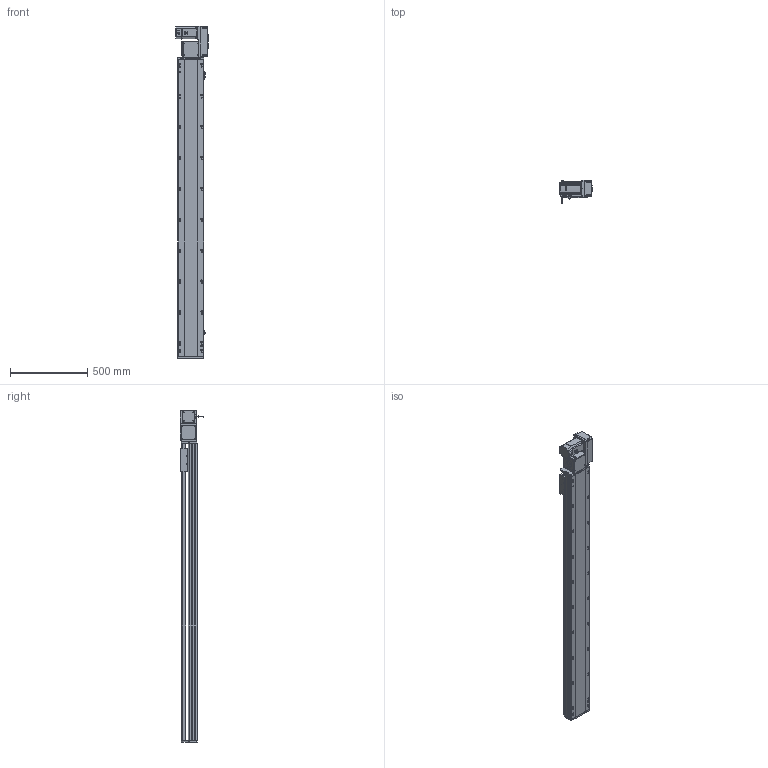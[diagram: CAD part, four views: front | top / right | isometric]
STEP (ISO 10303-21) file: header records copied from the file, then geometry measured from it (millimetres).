
FILE_DESCRIPTION (( 'STEP AP214' ), '1' );
FILE_NAME ('RTB17S-XX-1650-R-M75-C4.STEP', '2025-12-12T01:39:15', ( '' ), ( '' ), 'SwSTEP 2.0', 'SolidWorks 2018', '' );
FILE_SCHEMA (( 'AUTOMOTIVE_DESIGN' ));
Length unit declared in the file: millimetre
Products named in the file (15): RTB17S-L-014-T20-P75--々湍釱^RTB17S-R-々湍釱蚾饜-750W_RTB17S-XX-XX-R-M75-C4; RTB17S-L-007奻裔^RTB17S-XX-XX-R-M75-C4; EE672^RTB17S-XX-XX-R-M75-C4; RTB22S-GY-018P^RTB17S-R-々湍釱蚾饜-750W_RTB17S-XX-XX-R-M75-C4; RTB17S-XX-1650-R-M75-C4; RTB17S-R-々湍釱蚾饜-750W^RTB17S-XX-XX-R-M75-C4; RTB22S-GY-005P^RTB17S-R-々湍釱蚾饜-750W_RTB17S-XX-XX-R-M75-C4; RTB17S-賑釱^RTB17S-XX-XX-R-M75-C4; RTB17S-L-001-耜醱啣^RTB17S-XX-XX-R-M75-C4; RTB17S-L-004-賑釱^RTB17S-賑釱_RTB17S-XX-XX-R-M75-C4; RTH13-BL-012覜茼え俋离^RTB17S-賑釱_RTB17S-XX-XX-R-M75-C4; RTB22S-GY-008-M75--萇儂啣^RTB17S-R-々湍釱蚾饜-750W_RTB17S-XX-XX-R-M75-C4; RTB17-R-011菁釱^RTB17S-XX-XX-R-M75-C4; RTB22S-GY-017P^RTB17S-R-々湍釱蚾饜-750W_RTB17S-XX-XX-R-M75-C4; 750W萇儂^RTB17S-XX-XX-R-M75-C4
Assembly tree (17 placements, depth 3):
  RTB17S-XX-1650-R-M75-C4
    RTB17-R-011菁釱^RTB17S-XX-XX-R-M75-C4
    EE672^RTB17S-XX-XX-R-M75-C4  x3
    RTB17S-L-001-耜醱啣^RTB17S-XX-XX-R-M75-C4
    RTB17S-賑釱^RTB17S-XX-XX-R-M75-C4
      RTB17S-L-004-賑釱^RTB17S-賑釱_RTB17S-XX-XX-R-M75-C4
      RTH13-BL-012覜茼え俋离^RTB17S-賑釱_RTB17S-XX-XX-R-M75-C4
    RTB17S-L-007奻裔^RTB17S-XX-XX-R-M75-C4
    750W萇儂^RTB17S-XX-XX-R-M75-C4
    RTB17S-R-々湍釱蚾饜-750W^RTB17S-XX-XX-R-M75-C4
      RTB17S-L-014-T20-P75--々湍釱^RTB17S-R-々湍釱蚾饜-750W_RTB17S-XX-XX-R-M75-C4
      RTB22S-GY-005P^RTB17S-R-々湍釱蚾饜-750W_RTB17S-XX-XX-R-M75-C4
      RTB22S-GY-017P^RTB17S-R-々湍釱蚾饜-750W_RTB17S-XX-XX-R-M75-C4  x2
      RTB22S-GY-008-M75--萇儂啣^RTB17S-R-々湍釱蚾饜-750W_RTB17S-XX-XX-R-M75-C4
      RTB22S-GY-018P^RTB17S-R-々湍釱蚾饜-750W_RTB17S-XX-XX-R-M75-C4
Bounding box: 207.4 x 152.7 x 2149 mm (x, y, z)
Volume: 16259150.1 mm3; surface area: 2871131.7 mm2
Topology: 17 solids, 17 shells, 2153 faces, 5998 edges, 3878 vertices
Faces by surface type: plane 978, cylinder 759, bspline 294, cone 110, sphere 8, torus 4
Entity records: 61174 total; most frequent: CARTESIAN_POINT 18062, ORIENTED_EDGE 8840, DIRECTION 8222, EDGE_CURVE 4420, AXIS2_PLACEMENT_3D 2898, VERTEX_POINT 2882, LINE 2426, VECTOR 2426
